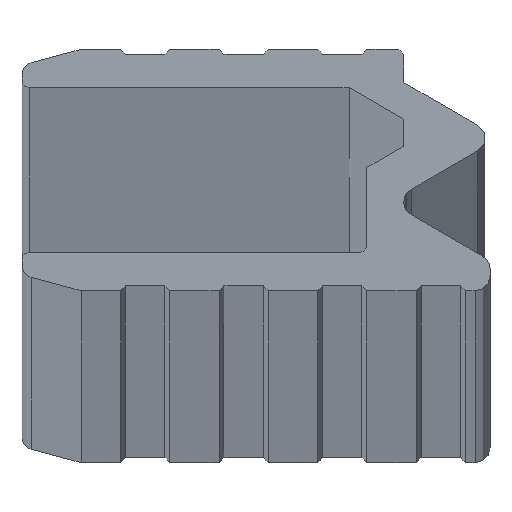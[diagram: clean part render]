
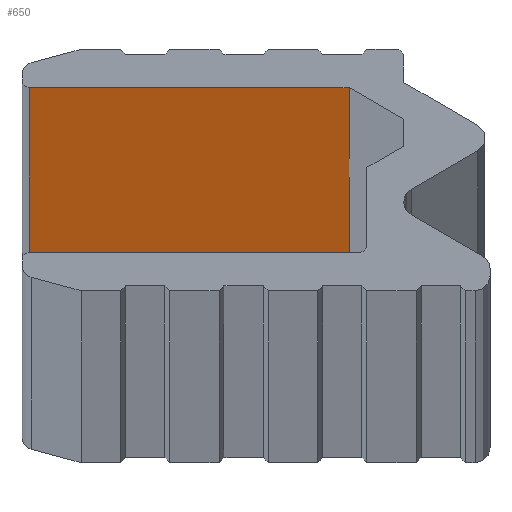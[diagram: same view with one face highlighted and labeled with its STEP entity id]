
A CAD part, top view. The second image highlights one B-rep face of the part: STEP entity #650.
In plain terms, the highlighted planar face has unit normal (0, -1, 0).
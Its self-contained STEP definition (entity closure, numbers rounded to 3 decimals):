
#5 = EDGE_CURVE ( 'NONE', #179, #370, #1825, .T. ) ;
#143 = ORIENTED_EDGE ( 'NONE', *, *, #5, .F. ) ;
#144 = DIRECTION ( 'NONE',  ( 0., 0., -1. ) ) ;
#179 = VERTEX_POINT ( 'NONE', #911 ) ;
#187 = DIRECTION ( 'NONE',  ( 0., 0., -1. ) ) ;
#201 = VECTOR ( 'NONE', #369, 1000. ) ;
#251 = EDGE_CURVE ( 'NONE', #1288, #1700, #448, .T. ) ;
#329 = LINE ( 'NONE', #633, #406 ) ;
#369 = DIRECTION ( 'NONE',  ( -1., 0., 0. ) ) ;
#370 = VERTEX_POINT ( 'NONE', #1535 ) ;
#376 = CARTESIAN_POINT ( 'NONE',  ( -9.2, 3.35, 4000. ) ) ;
#406 = VECTOR ( 'NONE', #760, 1000. ) ;
#424 = CARTESIAN_POINT ( 'NONE',  ( -9.2, 3.35, 4000. ) ) ;
#448 = LINE ( 'NONE', #424, #667 ) ;
#482 = CARTESIAN_POINT ( 'NONE',  ( 3.776, 3.35, 4000. ) ) ;
#563 = CARTESIAN_POINT ( 'NONE',  ( 0., 3.35, 4000. ) ) ;
#633 = CARTESIAN_POINT ( 'NONE',  ( 0., 3.35, 0. ) ) ;
#650 = ADVANCED_FACE ( 'NONE', ( #1323 ), #716, .T. ) ;
#667 = VECTOR ( 'NONE', #144, 1000. ) ;
#716 = PLANE ( 'NONE',  #1361 ) ;
#760 = DIRECTION ( 'NONE',  ( -1., 0., 0. ) ) ;
#777 = ORIENTED_EDGE ( 'NONE', *, *, #1903, .F. ) ;
#881 = VECTOR ( 'NONE', #187, 1000. ) ;
#911 = CARTESIAN_POINT ( 'NONE',  ( 3.776, 3.35, 4000. ) ) ;
#1085 = CARTESIAN_POINT ( 'NONE',  ( -9.2, 3.35, 0. ) ) ;
#1127 = ORIENTED_EDGE ( 'NONE', *, *, #1232, .T. ) ;
#1165 = DIRECTION ( 'NONE',  ( 0., -1., 0. ) ) ;
#1232 = EDGE_CURVE ( 'NONE', #179, #1288, #1281, .T. ) ;
#1249 = ORIENTED_EDGE ( 'NONE', *, *, #251, .T. ) ;
#1281 = LINE ( 'NONE', #1414, #201 ) ;
#1288 = VERTEX_POINT ( 'NONE', #376 ) ;
#1323 = FACE_OUTER_BOUND ( 'NONE', #1422, .T. ) ;
#1361 = AXIS2_PLACEMENT_3D ( 'NONE', #563, #1165, #1771 ) ;
#1414 = CARTESIAN_POINT ( 'NONE',  ( 0., 3.35, 4000. ) ) ;
#1422 = EDGE_LOOP ( 'NONE', ( #777, #143, #1127, #1249 ) ) ;
#1535 = CARTESIAN_POINT ( 'NONE',  ( 3.776, 3.35, 0. ) ) ;
#1700 = VERTEX_POINT ( 'NONE', #1085 ) ;
#1771 = DIRECTION ( 'NONE',  ( 0., 0., -1. ) ) ;
#1825 = LINE ( 'NONE', #482, #881 ) ;
#1903 = EDGE_CURVE ( 'NONE', #370, #1700, #329, .T. ) ;
